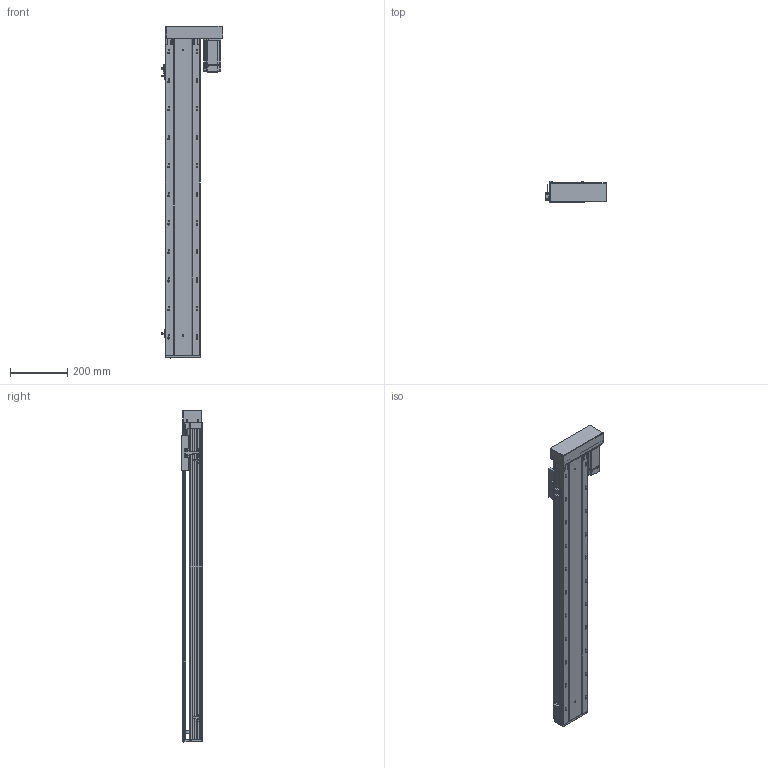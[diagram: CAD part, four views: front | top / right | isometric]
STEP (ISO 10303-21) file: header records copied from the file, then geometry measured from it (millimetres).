
FILE_DESCRIPTION (( 'STEP AP203' ), '1' );
FILE_NAME ('RY120-L2020-300-RK.SLDASM_900.step', '2021-03-12T07:14:59', ( '盈信电脑' ), ( '东莞市道滘镇水果街19号' ), 'SwSTEP 2.0', 'SolidWorks 2012', '' );
FILE_SCHEMA (( 'CONFIG_CONTROL_DESIGN' ));
Length unit declared in the file: millimetre
Products named in the file (15): RY120-400W萇儂傷-酘衵殏_450; RY120-L2020-300-RK.SLDASM_900; RY120蛌殏萇儂欶; RY120转拆电端丝杆支撑座(20丝杆，7002轴承); 侂狟400W侜督萇儂; RY120酘殏萇儂假蚾啣; 15; 滅袉蝶18-10; 滅袉蝶18-24; 覜茼ん672; RY120外置感应片(140共用）; RY120-300-RK蛌殏倰第奻裔啣_900; RY120綴裔啣; RY120臏賑輸(20蹟譫); RY120-300-RK蛌殏倰第菁釱_900
Assembly tree (17 placements, depth 4):
  RY120-L2020-300-RK.SLDASM_900
    RY120-300-RK蛌殏倰第菁釱_900
    RY120-300-RK蛌殏倰第奻裔啣_900
    RY120臏賑輸(20蹟譫)
    RY120綴裔啣
    覜茼ん672  x3
    滅袉蝶18-10
    滅袉蝶18-24  x2
    RY120外置感应片(140共用）
    RY120转拆电端丝杆支撑座(20丝杆，7002轴承)
    RY120-400W萇儂傷-酘衵殏_450
      RY120酘殏萇儂假蚾啣
      侂狟400W侜督萇儂
        15
      RY120蛌殏萇儂欶
Bounding box: 214.2 x 73 x 1164 mm (x, y, z)
Volume: 3321578.4 mm3; surface area: 1231608.9 mm2
Topology: 16 solids, 16 shells, 2628 faces, 7271 edges, 4654 vertices
Faces by surface type: plane 1256, cylinder 1028, cone 239, bspline 105
Entity records: 88367 total; most frequent: CARTESIAN_POINT 25521, ORIENTED_EDGE 13206, DIRECTION 12059, EDGE_CURVE 6603, VERTEX_POINT 4322, AXIS2_PLACEMENT_3D 4045, LINE 3969, VECTOR 3969
